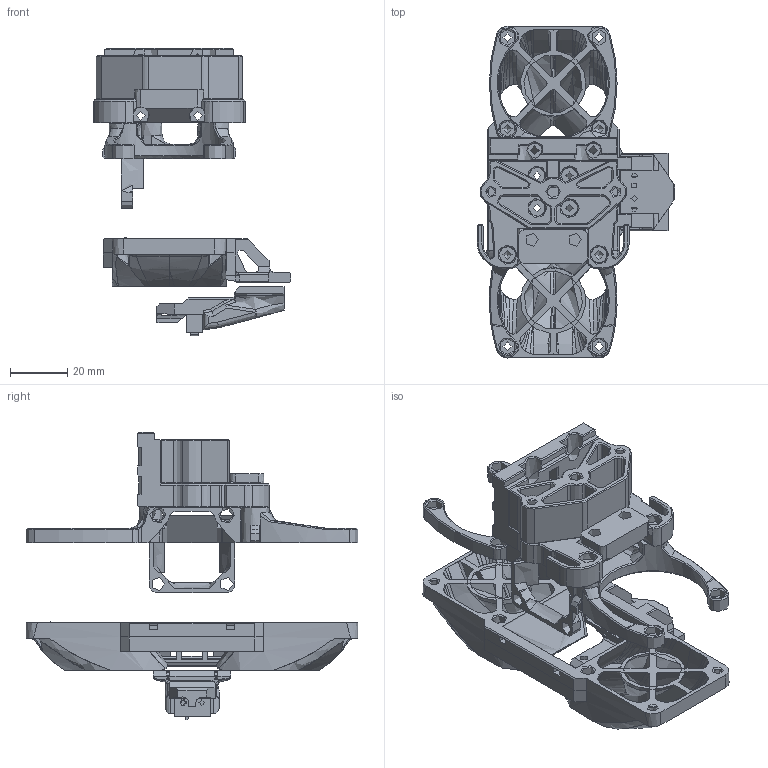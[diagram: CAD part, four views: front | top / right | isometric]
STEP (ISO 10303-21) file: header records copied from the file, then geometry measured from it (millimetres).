
FILE_DESCRIPTION(/* description */ (''),/* implementation_level */ '2;1');
FILE_NAME(/* name */ 'Jaguar Redesign Assembly v40.step',/* time_stamp */ '2024-06-13T21:05:11-07:00',/* author */ (''),/* organization */ (''),/* preprocessor_version */ 'ST-DEVELOPER v20',/* originating_system */ 'Autodesk Translation Framework v13.14.0.145',/* authorisation */ '');
FILE_SCHEMA (('AUTOMOTIVE_DESIGN { 1 0 10303 214 3 1 1 }'));
Products named in the file (11): Jaguar Redesign Assembly; Extruder Spacer; Hotend Mount; fan mount; heatbreak duct; 4 Vane Duct (old); klicky nozzle tap; D2F (3) (1); D2F_ACTUATOR (3) (1); D2F_BASE (3) (1); 3 Vane Duct with Center Thing
Assembly tree (10 placements, depth 4):
  Jaguar Redesign Assembly
    Extruder Spacer
    Hotend Mount
    fan mount
    heatbreak duct
    4 Vane Duct (old)
    klicky nozzle tap
      D2F (3) (1)
        D2F_ACTUATOR (3) (1)
        D2F_BASE (3) (1)
    3 Vane Duct with Center Thing
Bounding box: 68.92 x 116 x 100.42 mm (x, y, z)
Volume: 87748.4 mm3; surface area: 73424.1 mm2
Topology: 9 solids, 9 shells, 2047 faces, 5858 edges, 3767 vertices
Faces by surface type: plane 907, bspline 519, cylinder 350, cone 238, torus 26, sphere 7
Full cylindrical faces by diameter (mm): 1.8 x2, 2 x1, 2.385 x4, 2.6 x4, 3 x4, 3.2 x22, 3.4 x16, 4.3 x2, 4.7 x26, 5.5 x2, 5.6 x6, 6 x6, 6.1 x1, 8 x1
Entity records: 114551 total; most frequent: CARTESIAN_POINT 63807, ORIENTED_EDGE 11658, DIRECTION 8851, EDGE_CURVE 5829, VERTEX_POINT 3767, LINE 3105, VECTOR 3105, AXIS2_PLACEMENT_3D 2873
